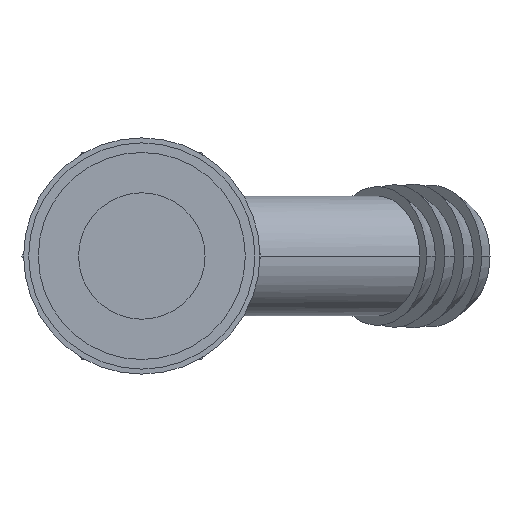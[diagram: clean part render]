
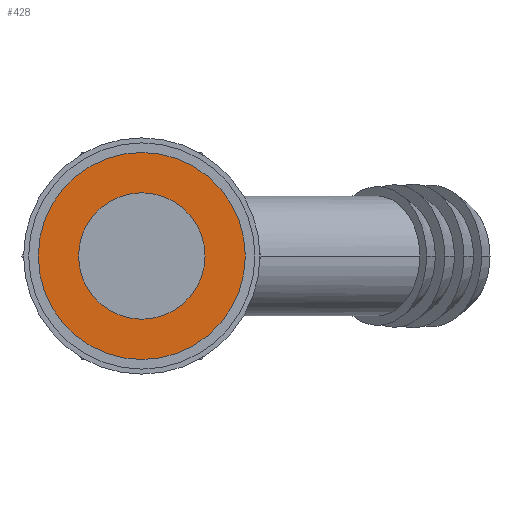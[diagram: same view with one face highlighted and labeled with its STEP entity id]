
A CAD part, left-side view. The second image highlights one B-rep face of the part: STEP entity #428.
In plain terms, the highlighted planar face has unit normal (-1, 0, 0).
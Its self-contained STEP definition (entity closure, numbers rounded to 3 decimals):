
#39 = AXIS2_PLACEMENT_3D ( 'NONE', #325, #82, #1438 ) ;
#80 = ORIENTED_EDGE ( 'NONE', *, *, #371, .F. ) ;
#82 = DIRECTION ( 'NONE',  ( -1., 0., 0. ) ) ;
#203 = EDGE_CURVE ( 'NONE', #789, #1180, #689, .T. ) ;
#208 = EDGE_LOOP ( 'NONE', ( #400, #1403 ) ) ;
#276 = CARTESIAN_POINT ( 'NONE',  ( 0., 0., 4.75 ) ) ;
#325 = CARTESIAN_POINT ( 'NONE',  ( 0., 0., 0. ) ) ;
#368 = CARTESIAN_POINT ( 'NONE',  ( 0., 0., 7.776 ) ) ;
#371 = EDGE_CURVE ( 'NONE', #923, #1464, #479, .T. ) ;
#372 = DIRECTION ( 'NONE',  ( -1., 0., 0. ) ) ;
#400 = ORIENTED_EDGE ( 'NONE', *, *, #203, .T. ) ;
#412 = EDGE_CURVE ( 'NONE', #1180, #789, #1005, .T. ) ;
#428 = ADVANCED_FACE ( 'NONE', ( #1313, #672 ), #969, .F. ) ;
#479 = CIRCLE ( 'NONE', #39, 4.75 ) ;
#533 = AXIS2_PLACEMENT_3D ( 'NONE', #801, #928, #811 ) ;
#590 = EDGE_LOOP ( 'NONE', ( #720, #80 ) ) ;
#591 = DIRECTION ( 'NONE',  ( 0., 0., -1. ) ) ;
#644 = AXIS2_PLACEMENT_3D ( 'NONE', #1221, #941, #1308 ) ;
#646 = CARTESIAN_POINT ( 'NONE',  ( 0., 0., -4.75 ) ) ;
#672 = FACE_OUTER_BOUND ( 'NONE', #208, .T. ) ;
#689 = CIRCLE ( 'NONE', #533, 7.776 ) ;
#720 = ORIENTED_EDGE ( 'NONE', *, *, #945, .F. ) ;
#789 = VERTEX_POINT ( 'NONE', #368 ) ;
#801 = CARTESIAN_POINT ( 'NONE',  ( 0., 0., 0. ) ) ;
#811 = DIRECTION ( 'NONE',  ( 0., 0., 1. ) ) ;
#878 = CARTESIAN_POINT ( 'NONE',  ( 0., 0., 0. ) ) ;
#898 = DIRECTION ( 'NONE',  ( 0., 0., 1. ) ) ;
#923 = VERTEX_POINT ( 'NONE', #646 ) ;
#928 = DIRECTION ( 'NONE',  ( -1., 0., 0. ) ) ;
#941 = DIRECTION ( 'NONE',  ( -1., 0., 0. ) ) ;
#945 = EDGE_CURVE ( 'NONE', #1464, #923, #1307, .T. ) ;
#951 = CARTESIAN_POINT ( 'NONE',  ( 0., 4.75, 0. ) ) ;
#969 = PLANE ( 'NONE',  #970 ) ;
#970 = AXIS2_PLACEMENT_3D ( 'NONE', #951, #1076, #591 ) ;
#995 = CARTESIAN_POINT ( 'NONE',  ( 0., 0., -7.776 ) ) ;
#1005 = CIRCLE ( 'NONE', #644, 7.776 ) ;
#1076 = DIRECTION ( 'NONE',  ( 1., 0., 0. ) ) ;
#1170 = AXIS2_PLACEMENT_3D ( 'NONE', #878, #372, #898 ) ;
#1180 = VERTEX_POINT ( 'NONE', #995 ) ;
#1221 = CARTESIAN_POINT ( 'NONE',  ( 0., 0., 0. ) ) ;
#1307 = CIRCLE ( 'NONE', #1170, 4.75 ) ;
#1308 = DIRECTION ( 'NONE',  ( 0., 0., 1. ) ) ;
#1313 = FACE_BOUND ( 'NONE', #590, .T. ) ;
#1403 = ORIENTED_EDGE ( 'NONE', *, *, #412, .T. ) ;
#1438 = DIRECTION ( 'NONE',  ( 0., 0., 1. ) ) ;
#1464 = VERTEX_POINT ( 'NONE', #276 ) ;
